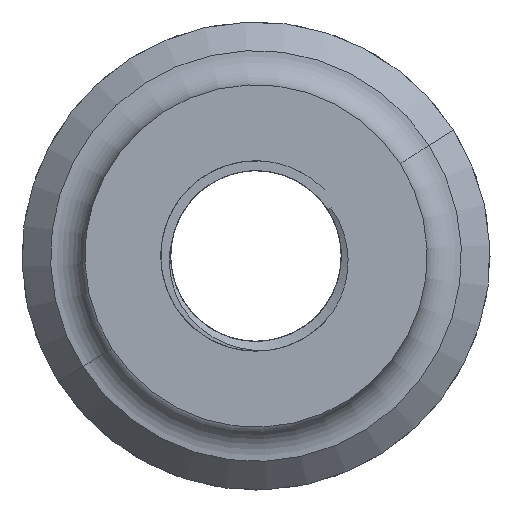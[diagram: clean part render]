
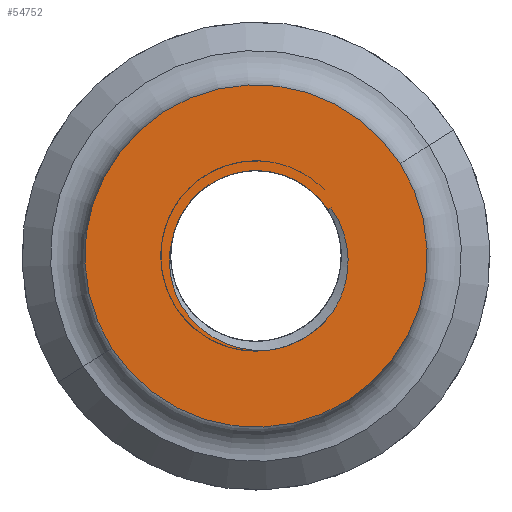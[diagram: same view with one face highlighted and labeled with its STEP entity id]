
A CAD part, front view. The second image highlights one B-rep face of the part: STEP entity #54752.
In plain terms, the highlighted planar face has unit normal (0, -1, 0).
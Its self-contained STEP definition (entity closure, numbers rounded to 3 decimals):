
#554 = AXIS2_PLACEMENT_3D ( 'NONE', #57436, #19465, #32960 ) ;
#3066 = CARTESIAN_POINT ( 'NONE',  ( -1.604, -214.913, 20.99 ) ) ;
#3606 = DIRECTION ( 'NONE',  ( 0., -1., 0. ) ) ;
#4852 = CARTESIAN_POINT ( 'NONE',  ( 18.054, -214.913, 32.603 ) ) ;
#5301 = CARTESIAN_POINT ( 'NONE',  ( 5.735, -214.913, 23.137 ) ) ;
#5473 = CARTESIAN_POINT ( 'NONE',  ( 17.069, -214.913, 23.23 ) ) ;
#5482 = CARTESIAN_POINT ( 'NONE',  ( 3.785, -214.913, 30.915 ) ) ;
#5951 = CARTESIAN_POINT ( 'NONE',  ( 14.344, -214.913, 21.41 ) ) ;
#6644 = VERTEX_POINT ( 'NONE', #58231 ) ;
#7260 = VERTEX_POINT ( 'NONE', #39525 ) ;
#9487 = CARTESIAN_POINT ( 'NONE',  ( 12.247, -214.913, 20.832 ) ) ;
#9757 = CARTESIAN_POINT ( 'NONE',  ( 11.03, -214.913, 29.077 ) ) ;
#11146 = DIRECTION ( 'NONE',  ( -0.842, 0., -0.539 ) ) ;
#12286 = CARTESIAN_POINT ( 'NONE',  ( 11.596, -214.913, 20.771 ) ) ;
#12335 = CARTESIAN_POINT ( 'NONE',  ( 19.105, -214.913, 27.896 ) ) ;
#13121 = ORIENTED_EDGE ( 'NONE', *, *, #66255, .F. ) ;
#13541 = FACE_OUTER_BOUND ( 'NONE', #48361, .T. ) ;
#13765 = CARTESIAN_POINT ( 'NONE',  ( 3.434, -214.913, 28.355 ) ) ;
#15126 = EDGE_CURVE ( 'NONE', #48920, #7260, #52524, .T. ) ;
#15332 = VERTEX_POINT ( 'NONE', #5482 ) ;
#16057 = CARTESIAN_POINT ( 'NONE',  ( 17.604, -214.913, 33.284 ) ) ;
#18132 = CIRCLE ( 'NONE', #554, 7.475 ) ;
#19309 = ORIENTED_EDGE ( 'NONE', *, *, #94694, .T. ) ;
#19465 = DIRECTION ( 'NONE',  ( 0., -1., 0. ) ) ;
#21279 = CARTESIAN_POINT ( 'NONE',  ( 3.748, -214.913, 26.444 ) ) ;
#21538 = ORIENTED_EDGE ( 'NONE', *, *, #42037, .F. ) ;
#21740 = CARTESIAN_POINT ( 'NONE',  ( 3.477, -214.913, 29.654 ) ) ;
#22238 = CARTESIAN_POINT ( 'NONE',  ( 3.785, -214.913, 30.915 ) ) ;
#25777 = B_SPLINE_CURVE_WITH_KNOTS ( 'NONE', 3,
 ( #57821, #90238, #4852, #52264, #82784, #44804, #75282, #12335, #96798, #34861, #58801, #66770, #66291, #88317 ),
 .UNSPECIFIED., .F., .F.,
 ( 4, 2, 2, 2, 2, 2, 4 ),
 ( 0., 0.001, 0.002, 0.005, 0.007, 0.009, 0.01 ),
 .UNSPECIFIED. ) ;
#26760 = DIRECTION ( 'NONE',  ( -0.539, 0., 0.842 ) ) ;
#27799 = CARTESIAN_POINT ( 'NONE',  ( 8.727, -214.913, 21.256 ) ) ;
#29019 = VERTEX_POINT ( 'NONE', #31771 ) ;
#31771 = CARTESIAN_POINT ( 'NONE',  ( 7., -214.913, 35.372 ) ) ;
#32960 = DIRECTION ( 'NONE',  ( -0.539, 0., 0.842 ) ) ;
#34861 = CARTESIAN_POINT ( 'NONE',  ( 18.636, -214.913, 25.922 ) ) ;
#35066 = PLANE ( 'NONE',  #84212 ) ;
#35286 = CARTESIAN_POINT ( 'NONE',  ( 9.978, -214.913, 20.925 ) ) ;
#39110 = VERTEX_POINT ( 'NONE', #64459 ) ;
#39525 = CARTESIAN_POINT ( 'NONE',  ( 17.326, -214.913, 33.106 ) ) ;
#40164 = CIRCLE ( 'NONE', #96020, 7.475 ) ;
#40941 = DIRECTION ( 'NONE',  ( 0., 1., 0. ) ) ;
#42037 = EDGE_CURVE ( 'NONE', #7260, #29019, #40164, .T. ) ;
#42086 = FACE_BOUND ( 'NONE', #70012, .T. ) ;
#43051 = CARTESIAN_POINT ( 'NONE',  ( 11.03, -214.913, 29.077 ) ) ;
#43765 = CARTESIAN_POINT ( 'NONE',  ( 3.96, -214.913, 25.83 ) ) ;
#43942 = CARTESIAN_POINT ( 'NONE',  ( 12.247, -214.913, 20.832 ) ) ;
#43981 = ORIENTED_EDGE ( 'NONE', *, *, #15126, .F. ) ;
#44804 = CARTESIAN_POINT ( 'NONE',  ( 18.958, -214.913, 30.335 ) ) ;
#47436 = DIRECTION ( 'NONE',  ( -0.842, 0., -0.539 ) ) ;
#48361 = EDGE_LOOP ( 'NONE', ( #13121, #53563 ) ) ;
#48920 = VERTEX_POINT ( 'NONE', #16057 ) ;
#49148 = CARTESIAN_POINT ( 'NONE',  ( 11.03, -214.913, 29.077 ) ) ;
#50738 = CARTESIAN_POINT ( 'NONE',  ( 6.211, -214.913, 22.699 ) ) ;
#51441 = CARTESIAN_POINT ( 'NONE',  ( 12.787, -214.913, 20.911 ) ) ;
#51742 = CARTESIAN_POINT ( 'NONE',  ( 3.577, -214.913, 27.067 ) ) ;
#52264 = CARTESIAN_POINT ( 'NONE',  ( 18.422, -214.913, 31.878 ) ) ;
#52524 = LINE ( 'NONE', #73554, #76227 ) ;
#53563 = ORIENTED_EDGE ( 'NONE', *, *, #82968, .F. ) ;
#54752 = ADVANCED_FACE ( 'NONE', ( #13541, #42086 ), #35066, .T. ) ;
#57055 = EDGE_CURVE ( 'NONE', #6644, #74076, #93210, .T. ) ;
#57436 = CARTESIAN_POINT ( 'NONE',  ( 11.03, -214.913, 29.077 ) ) ;
#57446 = CARTESIAN_POINT ( 'NONE',  ( 17.72, -214.913, 24.107 ) ) ;
#57821 = CARTESIAN_POINT ( 'NONE',  ( 17.604, -214.913, 33.284 ) ) ;
#58231 = CARTESIAN_POINT ( 'NONE',  ( 17.72, -214.913, 24.107 ) ) ;
#58318 = B_SPLINE_CURVE_WITH_KNOTS ( 'NONE', 3,
 ( #80772, #12286, #74233, #35286, #96255, #65752, #27799, #59239, #81252, #89736, #50738, #5301, #58747, #95241, #89242, #81745, #43765, #21279, #51742, #82242, #13765, #90194, #21740, #97733, #22238 ),
 .UNSPECIFIED., .F., .F.,
 ( 4, 2, 2, 2, 2, 2, 2, 2, 2, 1, 2, 2, 4 ),
 ( 0., 0.002, 0.003, 0.004, 0.006, 0.007, 0.008, 0.01, 0.011, 0.012, 0.013, 0.014, 0.016 ),
 .UNSPECIFIED. ) ;
#58747 = CARTESIAN_POINT ( 'NONE',  ( 5.508, -214.913, 23.372 ) ) ;
#58801 = CARTESIAN_POINT ( 'NONE',  ( 18.49, -214.913, 25.539 ) ) ;
#58943 = CARTESIAN_POINT ( 'NONE',  ( 14.84, -214.913, 21.644 ) ) ;
#59239 = CARTESIAN_POINT ( 'NONE',  ( 7.827, -214.913, 21.614 ) ) ;
#60521 = CIRCLE ( 'NONE', #73304, 15. ) ;
#62755 = DIRECTION ( 'NONE',  ( 0., -1., 0. ) ) ;
#64459 = CARTESIAN_POINT ( 'NONE',  ( 23.664, -214.913, 37.163 ) ) ;
#65752 = CARTESIAN_POINT ( 'NONE',  ( 9.033, -214.913, 21.155 ) ) ;
#66255 = EDGE_CURVE ( 'NONE', #39110, #69920, #92329, .T. ) ;
#66291 = CARTESIAN_POINT ( 'NONE',  ( 17.947, -214.913, 24.449 ) ) ;
#66747 = EDGE_CURVE ( 'NONE', #74076, #15332, #58318, .T. ) ;
#66770 = CARTESIAN_POINT ( 'NONE',  ( 18.146, -214.913, 24.804 ) ) ;
#69920 = VERTEX_POINT ( 'NONE', #3066 ) ;
#70012 = EDGE_LOOP ( 'NONE', ( #89824, #89201, #83000, #21538, #43981, #19309 ) ) ;
#73304 = AXIS2_PLACEMENT_3D ( 'NONE', #49148, #79637, #11146 ) ;
#73554 = CARTESIAN_POINT ( 'NONE',  ( 11.03, -214.913, 29.077 ) ) ;
#73922 = CARTESIAN_POINT ( 'NONE',  ( 16.245, -214.913, 22.484 ) ) ;
#74076 = VERTEX_POINT ( 'NONE', #9487 ) ;
#74233 = CARTESIAN_POINT ( 'NONE',  ( 10.947, -214.913, 20.787 ) ) ;
#74824 = AXIS2_PLACEMENT_3D ( 'NONE', #85894, #40941, #47436 ) ;
#75282 = CARTESIAN_POINT ( 'NONE',  ( 19.09, -214.913, 29.535 ) ) ;
#76227 = VECTOR ( 'NONE', #82545, 1000. ) ;
#79637 = DIRECTION ( 'NONE',  ( 0., 1., 0. ) ) ;
#80772 = CARTESIAN_POINT ( 'NONE',  ( 12.247, -214.913, 20.832 ) ) ;
#81252 = CARTESIAN_POINT ( 'NONE',  ( 7.248, -214.913, 21.931 ) ) ;
#81745 = CARTESIAN_POINT ( 'NONE',  ( 4.087, -214.913, 25.526 ) ) ;
#82242 = CARTESIAN_POINT ( 'NONE',  ( 3.485, -214.913, 27.707 ) ) ;
#82545 = DIRECTION ( 'NONE',  ( -0.842, 0., -0.539 ) ) ;
#82784 = CARTESIAN_POINT ( 'NONE',  ( 18.579, -214.913, 31.498 ) ) ;
#82968 = EDGE_CURVE ( 'NONE', #69920, #39110, #60521, .T. ) ;
#83000 = ORIENTED_EDGE ( 'NONE', *, *, #94155, .F. ) ;
#84212 = AXIS2_PLACEMENT_3D ( 'NONE', #43051, #3606, #95019 ) ;
#85894 = CARTESIAN_POINT ( 'NONE',  ( 11.03, -214.913, 29.077 ) ) ;
#88317 = CARTESIAN_POINT ( 'NONE',  ( 17.72, -214.913, 24.107 ) ) ;
#89201 = ORIENTED_EDGE ( 'NONE', *, *, #66747, .T. ) ;
#89242 = CARTESIAN_POINT ( 'NONE',  ( 4.518, -214.913, 24.655 ) ) ;
#89419 = CARTESIAN_POINT ( 'NONE',  ( 13.317, -214.913, 21.044 ) ) ;
#89736 = CARTESIAN_POINT ( 'NONE',  ( 6.461, -214.913, 22.496 ) ) ;
#89824 = ORIENTED_EDGE ( 'NONE', *, *, #57055, .T. ) ;
#90194 = CARTESIAN_POINT ( 'NONE',  ( 3.429, -214.913, 28.684 ) ) ;
#90238 = CARTESIAN_POINT ( 'NONE',  ( 17.843, -214.913, 32.951 ) ) ;
#92329 = CIRCLE ( 'NONE', #74824, 15. ) ;
#93210 = B_SPLINE_CURVE_WITH_KNOTS ( 'NONE', 3,
 ( #57446, #5473, #73922, #58943, #5951, #89419, #51441, #43942 ),
 .UNSPECIFIED., .F., .F.,
 ( 4, 2, 2, 4 ),
 ( 0., 0.003, 0.005, 0.007 ),
 .UNSPECIFIED. ) ;
#94155 = EDGE_CURVE ( 'NONE', #29019, #15332, #18132, .T. ) ;
#94694 = EDGE_CURVE ( 'NONE', #48920, #6644, #25777, .T. ) ;
#95019 = DIRECTION ( 'NONE',  ( 0.842, 0., 0.539 ) ) ;
#95241 = CARTESIAN_POINT ( 'NONE',  ( 4.874, -214.913, 24.117 ) ) ;
#96020 = AXIS2_PLACEMENT_3D ( 'NONE', #9757, #62755, #26760 ) ;
#96255 = CARTESIAN_POINT ( 'NONE',  ( 9.658, -214.913, 20.99 ) ) ;
#96798 = CARTESIAN_POINT ( 'NONE',  ( 18.988, -214.913, 27.096 ) ) ;
#97733 = CARTESIAN_POINT ( 'NONE',  ( 3.588, -214.913, 30.29 ) ) ;
